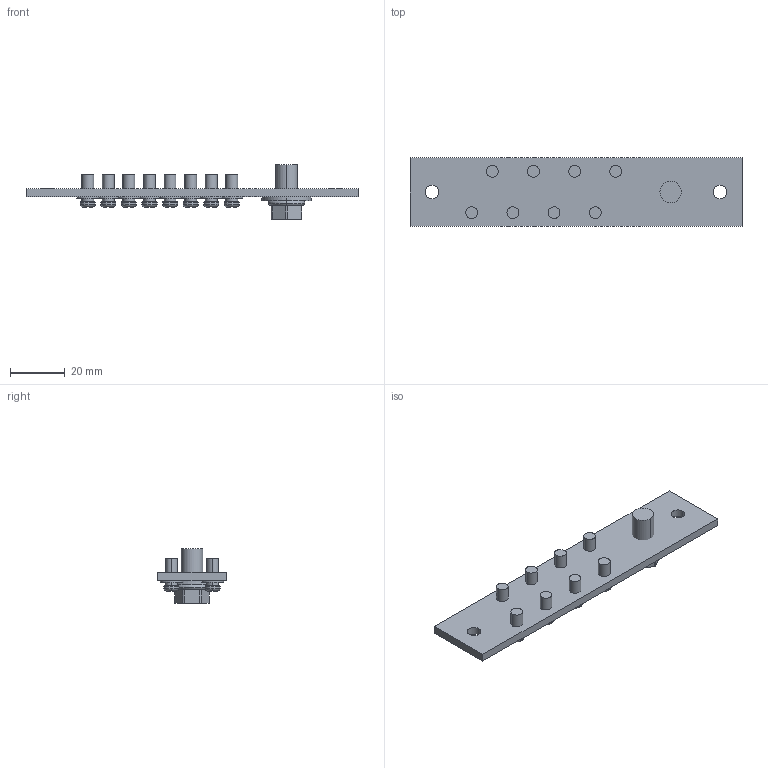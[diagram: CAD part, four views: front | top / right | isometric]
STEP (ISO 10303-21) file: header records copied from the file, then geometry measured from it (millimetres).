
FILE_DESCRIPTION(('Creo Elements/Direct Modeling STEP Export'),'2;1');
FILE_NAME('9.stp','2025-07-24T17:21:55',(''),(''),'PTC Creo Elements/Direct Modeling STEP processor for AP214 (Solid Model)','PTC Creo Elements/Direct Modeling 19.0 09-May-2014 (C) Parametric Technology GmbH','');
FILE_SCHEMA(('AUTOMOTIVE_DESIGN { 1 0 10303 214 1 1 1 1 }'));
Length unit declared in the file: millimetre
Products named in the file (17): CU_PRT.PRT; USER_LIBRARY-SAN_ZU_HE_LUO-2060.PRT; QUILT_1-14960_PRT.PRT; QUILT_2-34360_PRT.PRT; QUILT_3-34740_PRT.PRT; M5_1_1_1_1_1_1_1_1_2_ASM.ASM; A1_ASM.ASM; SCREW_1_1_PRT_PRT.PRT; SCREW_1_2_PRT_PRT.PRT; SCREW_1_ASM_ASM.ASM; SCREW_0723_STP_ASM.ASM; QUILT_3-85900_PRT.PRT; QUILT_2-85520_PRT.PRT; M5_1_1_1_1_1_1_1_1_1_1_1_1_1_1_.ASM; 17N_1_ASM.ASM; 9N_1.ASM; 9.stp
Assembly tree (24 placements, depth 6):
  9.stp
    9N_1.ASM
      17N_1_ASM.ASM
        M5_1_1_1_1_1_1_1_1_1_1_1_1_1_1_.ASM  x2
          QUILT_2-85520_PRT.PRT
          QUILT_3-85900_PRT.PRT
        SCREW_0723_STP_ASM.ASM
          SCREW_1_ASM_ASM.ASM
            SCREW_1_2_PRT_PRT.PRT
            SCREW_1_1_PRT_PRT.PRT
        A1_ASM.ASM
          M5_1_1_1_1_1_1_1_1_2_ASM.ASM  x4
            QUILT_3-34740_PRT.PRT
            QUILT_2-34360_PRT.PRT
            QUILT_1-14960_PRT.PRT
            USER_LIBRARY-SAN_ZU_HE_LUO-2060.PRT
        M5_1_1_1_1_1_1_1_1_2_ASM.ASM  x4
          QUILT_3-34740_PRT.PRT
          QUILT_2-34360_PRT.PRT
          QUILT_1-14960_PRT.PRT
          USER_LIBRARY-SAN_ZU_HE_LUO-2060.PRT
        CU_PRT.PRT
Bounding box: 121 x 25 x 20 mm (x, y, z)
Volume: 11772.5 mm3; surface area: 11136.1 mm2
Topology: 19 solids, 19 shells, 388 faces, 980 edges, 642 vertices
Faces by surface type: plane 216, cylinder 136, torus 36
Entity records: 4324 total; most frequent: CARTESIAN_POINT 661, DIRECTION 604, ORIENTED_EDGE 588, EDGE_CURVE 294, AXIS2_PLACEMENT_3D 224, VERTEX_POINT 194, VECTOR 156, LINE 156
